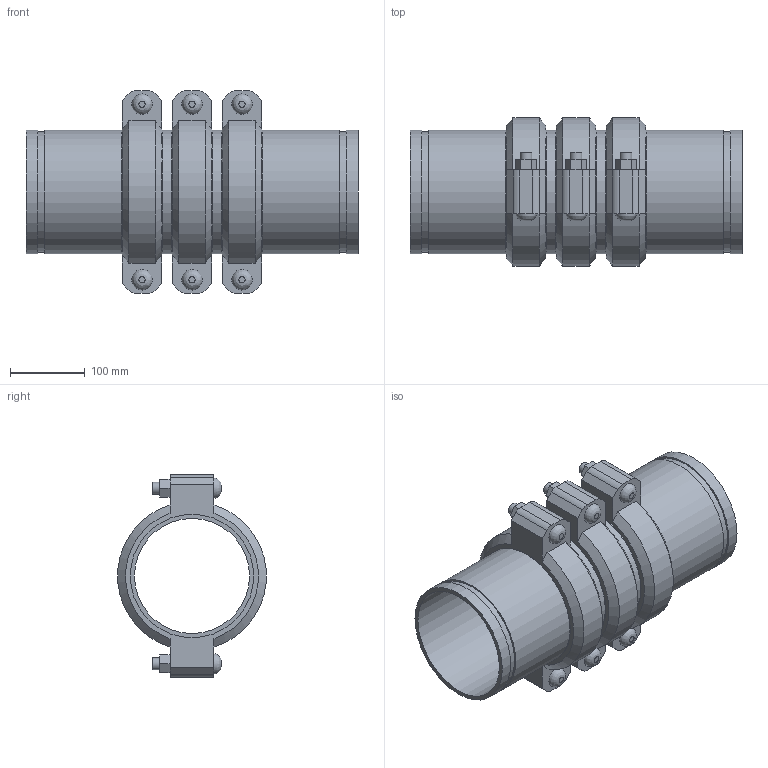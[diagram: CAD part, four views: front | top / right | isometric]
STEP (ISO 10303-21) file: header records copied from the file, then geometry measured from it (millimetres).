
FILE_DESCRIPTION(/* description */ ('VIC EXPANSION JOINT 3 COUPLINGS EXPANDED STYLE 155 (OGS)','CAx-IF Rec.Pracs.---Representation and Presentation of Product Manufacturing Information (PMI)---4.0---2014-10-13'),/* implementation_level */ '2;1');
FILE_NAME(/* name */ 'C:\Users\kkamble\AppData\Roaming\Autodesk\ApplicationPlugins\Victaulic.Temp\A258\Victaulic_IPS_Expansion Joint_Expanded_3 Couplings_Style 155 (OGS)_06.0 (165.1) (150).stp',/* time_stamp */ '2021-06-26T23:58:50+02:00',/* author */ ('kkamble'),/* organization */ ('Victaulic'),/* preprocessor_version */ 'ST-DEVELOPER v17.2',/* originating_system */ 'Autodesk Inventor 2019',/* authorisation */ '');
FILE_SCHEMA (('AP242_MANAGED_MODEL_BASED_3D_ENGINEERING_MIM_LF { 1 0 10303 442 1 1 4 }'));
Length unit declared in the file: inch
Products named in the file (4): 155-06.5 (165.1); Nipple-06.0 (165.1); Nipple-06.0 (165.1)_1; 075-06.0 (165.1)
Assembly tree (7 placements, depth 2):
  155-06.5 (165.1)
    Nipple-06.0 (165.1)  x2
    Nipple-06.0 (165.1)_1  x2
    075-06.0 (165.1)  x3
Bounding box: 443.99 x 198.42 x 270.76 mm (x, y, z)
Volume: 3244841 mm3; surface area: 800216.8 mm2
Topology: 7 solids, 13 shells, 219 faces, 519 edges, 366 vertices
Faces by surface type: plane 132, cylinder 69, cone 12, bspline 6
Full cylindrical faces by diameter (mm): 15.875 x12, 17.424 x6, 153.975 x4, 158.75 x3, 160.782 x8, 165.1 x18
Entity records: 2769 total; most frequent: CARTESIAN_POINT 491, DIRECTION 457, ORIENTED_EDGE 386, EDGE_CURVE 193, AXIS2_PLACEMENT_3D 182, VERTEX_POINT 138, EDGE_LOOP 107, LINE 93
